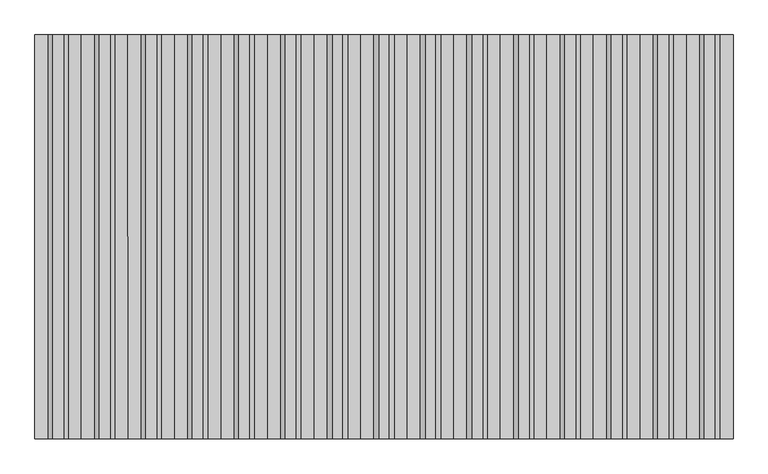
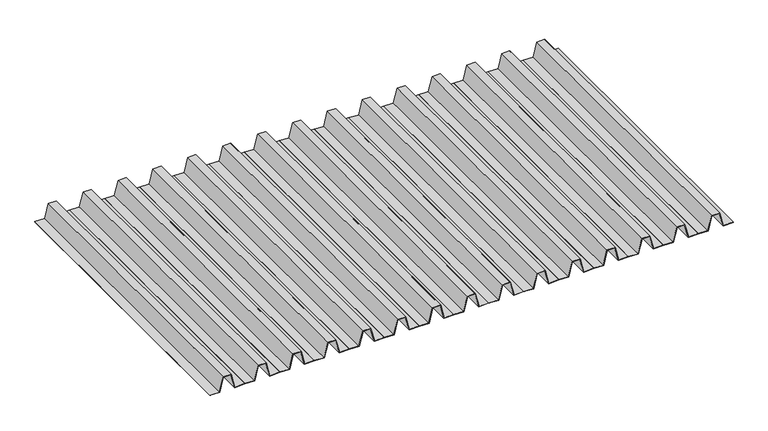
"""IFC4 building model written with IfcOpenShell, lengths in millimetres: proxy geometry, Renson_Amani_Fixed_Roof : Renson_Amani_Fixed_Roof."""

from ifc_helpers import new_model, si_unit, frame, origin, place, context, project, spatial, polyline, outline, extrude, source, transform, mapped, element, save


def generic_models_bdaf10d6(model_context):
    return source(origin(), model_context, "Body", "SweptSolid", [
        extrude(outline(polyline([(2416.1350727, 3500.0), (2413.1322147, 3500.0), (2410.0, 3571.7403502), (2516.0797384, 3598.1893092), (2516.0797384, 3651.8176159), (2410.0, 3678.2596498), (2413.1322147, 3750.0), (2416.1350727, 3750.0), (2413.1040587, 3680.577555), (2519.0797384, 3654.1614661), (2519.0797384, 3595.845459), (2413.1040587, 3569.422445), (2416.1350727, 3500.0)])), frame((0.0, 0.0, 0.0), z_axis=(0.0, 1.0, 0.0), x_axis=(0.0, 0.0, 1.0)), (0.0, 0.0, 1.0), 2170.0),
        extrude(outline(polyline([(2416.1350727, 3250.0), (2413.1322147, 3250.0), (2410.0, 3321.7403502), (2516.0797384, 3348.1893092), (2516.0797384, 3401.8176159), (2410.0, 3428.2596498), (2413.1322147, 3500.0), (2416.1350727, 3500.0), (2413.1040587, 3430.577555), (2519.0797384, 3404.1614661), (2519.0797384, 3345.845459), (2413.1040587, 3319.422445), (2416.1350727, 3250.0)])), frame((0.0, 0.0, 0.0), z_axis=(0.0, 1.0, 0.0), x_axis=(0.0, 0.0, 1.0)), (0.0, 0.0, 1.0), 2170.0),
        extrude(outline(polyline([(2416.1350727, 3000.0), (2413.1322147, 3000.0), (2410.0, 3071.7403502), (2516.0797384, 3098.1893092), (2516.0797384, 3151.8176159), (2410.0, 3178.2596498), (2413.1322147, 3250.0), (2416.1350727, 3250.0), (2413.1040587, 3180.577555), (2519.0797384, 3154.1614661), (2519.0797384, 3095.845459), (2413.1040587, 3069.422445), (2416.1350727, 3000.0)])), frame((0.0, 0.0, 0.0), z_axis=(0.0, 1.0, 0.0), x_axis=(0.0, 0.0, 1.0)), (0.0, 0.0, 1.0), 2170.0),
        extrude(outline(polyline([(2416.1350727, 2750.0), (2413.1322147, 2750.0), (2410.0, 2821.7403502), (2516.0797384, 2848.1893092), (2516.0797384, 2901.8176159), (2410.0, 2928.2596498), (2413.1322147, 3000.0), (2416.1350727, 3000.0), (2413.1040587, 2930.577555), (2519.0797384, 2904.1614661), (2519.0797384, 2845.845459), (2413.1040587, 2819.422445), (2416.1350727, 2750.0)])), frame((0.0, 0.0, 0.0), z_axis=(0.0, 1.0, 0.0), x_axis=(0.0, 0.0, 1.0)), (0.0, 0.0, 1.0), 2170.0),
        extrude(outline(polyline([(2416.1350727, 2500.0), (2413.1322147, 2500.0), (2410.0, 2571.7403502), (2516.0797384, 2598.1893092), (2516.0797384, 2651.8176159), (2410.0, 2678.2596498), (2413.1322147, 2750.0), (2416.1350727, 2750.0), (2413.1040587, 2680.577555), (2519.0797384, 2654.1614661), (2519.0797384, 2595.845459), (2413.1040587, 2569.422445), (2416.1350727, 2500.0)])), frame((0.0, 0.0, 0.0), z_axis=(0.0, 1.0, 0.0), x_axis=(0.0, 0.0, 1.0)), (0.0, 0.0, 1.0), 2170.0),
        extrude(outline(polyline([(2416.1350727, 2250.0), (2413.1322147, 2250.0), (2410.0, 2321.7403502), (2516.0797384, 2348.1893092), (2516.0797384, 2401.8176159), (2410.0, 2428.2596498), (2413.1322147, 2500.0), (2416.1350727, 2500.0), (2413.1040587, 2430.577555), (2519.0797384, 2404.1614661), (2519.0797384, 2345.845459), (2413.1040587, 2319.422445), (2416.1350727, 2250.0)])), frame((0.0, 0.0, 0.0), z_axis=(0.0, 1.0, 0.0), x_axis=(0.0, 0.0, 1.0)), (0.0, 0.0, 1.0), 2170.0),
        extrude(outline(polyline([(2416.1350727, 2000.0), (2413.1322147, 2000.0), (2410.0, 2071.7403502), (2516.0797384, 2098.1893092), (2516.0797384, 2151.8176159), (2410.0, 2178.2596498), (2413.1322147, 2250.0), (2416.1350727, 2250.0), (2413.1040587, 2180.577555), (2519.0797384, 2154.1614661), (2519.0797384, 2095.845459), (2413.1040587, 2069.422445), (2416.1350727, 2000.0)])), frame((0.0, 0.0, 0.0), z_axis=(0.0, 1.0, 0.0), x_axis=(0.0, 0.0, 1.0)), (0.0, 0.0, 1.0), 2170.0),
        extrude(outline(polyline([(2416.1350727, 1750.0), (2413.1322147, 1750.0), (2410.0, 1821.7403502), (2516.0797384, 1848.1893092), (2516.0797384, 1901.8176159), (2410.0, 1928.2596498), (2413.1322147, 2000.0), (2416.1350727, 2000.0), (2413.1040587, 1930.577555), (2519.0797384, 1904.1614661), (2519.0797384, 1845.845459), (2413.1040587, 1819.422445), (2416.1350727, 1750.0)])), frame((0.0, 0.0, 0.0), z_axis=(0.0, 1.0, 0.0), x_axis=(0.0, 0.0, 1.0)), (0.0, 0.0, 1.0), 2170.0),
        extrude(outline(polyline([(2416.1350727, 1500.0), (2413.1322147, 1500.0), (2410.0, 1571.7403502), (2516.0797384, 1598.1893092), (2516.0797384, 1651.8176159), (2410.0, 1678.2596498), (2413.1322147, 1750.0), (2416.1350727, 1750.0), (2413.1040587, 1680.577555), (2519.0797384, 1654.1614661), (2519.0797384, 1595.845459), (2413.1040587, 1569.422445), (2416.1350727, 1500.0)])), frame((0.0, 0.0, 0.0), z_axis=(0.0, 1.0, 0.0), x_axis=(0.0, 0.0, 1.0)), (0.0, 0.0, 1.0), 2170.0),
        extrude(outline(polyline([(2416.1350727, 1250.0), (2413.1322147, 1250.0), (2410.0, 1321.7403502), (2516.0797384, 1348.1893092), (2516.0797384, 1401.8176159), (2410.0, 1428.2596498), (2413.1322147, 1500.0), (2416.1350727, 1500.0), (2413.1040587, 1430.577555), (2519.0797384, 1404.1614661), (2519.0797384, 1345.845459), (2413.1040587, 1319.422445), (2416.1350727, 1250.0)])), frame((0.0, 0.0, 0.0), z_axis=(0.0, 1.0, 0.0), x_axis=(0.0, 0.0, 1.0)), (0.0, 0.0, 1.0), 2170.0),
        extrude(outline(polyline([(2416.1350727, 1000.0), (2413.1322147, 1000.0), (2410.0, 1071.7403502), (2516.0797384, 1098.1893092), (2516.0797384, 1151.8176159), (2410.0, 1178.2596498), (2413.1322147, 1250.0), (2416.1350727, 1250.0), (2413.1040587, 1180.577555), (2519.0797384, 1154.1614661), (2519.0797384, 1095.845459), (2413.1040587, 1069.422445), (2416.1350727, 1000.0)])), frame((0.0, 0.0, 0.0), z_axis=(0.0, 1.0, 0.0), x_axis=(0.0, 0.0, 1.0)), (0.0, 0.0, 1.0), 2170.0),
        extrude(outline(polyline([(2416.1350727, 750.0), (2413.1322147, 750.0), (2410.0, 821.7403502), (2516.0797384, 848.1893092), (2516.0797384, 901.8176159), (2410.0, 928.2596498), (2413.1322147, 1000.0), (2416.1350727, 1000.0), (2413.1040587, 930.577555), (2519.0797384, 904.1614661), (2519.0797384, 845.845459), (2413.1040587, 819.422445), (2416.1350727, 750.0)])), frame((0.0, 0.0, 0.0), z_axis=(0.0, 1.0, 0.0), x_axis=(0.0, 0.0, 1.0)), (0.0, 0.0, 1.0), 2170.0),
        extrude(outline(polyline([(2416.1350727, 500.0), (2413.1322147, 500.0), (2410.0, 571.7403502), (2516.0797384, 598.1893092), (2516.0797384, 651.8176159), (2410.0, 678.2596498), (2413.1322147, 750.0), (2416.1350727, 750.0), (2413.1040587, 680.577555), (2519.0797384, 654.1614661), (2519.0797384, 595.845459), (2413.1040587, 569.422445), (2416.1350727, 500.0)])), frame((0.0, 0.0, 0.0), z_axis=(0.0, 1.0, 0.0), x_axis=(0.0, 0.0, 1.0)), (0.0, 0.0, 1.0), 2170.0),
        extrude(outline(polyline([(2416.1350727, 250.0), (2413.1322147, 250.0), (2410.0, 321.7403502), (2516.0797384, 348.1893092), (2516.0797384, 401.8176159), (2410.0, 428.2596498), (2413.1322147, 500.0), (2416.1350727, 500.0), (2413.1040587, 430.577555), (2519.0797384, 404.1614661), (2519.0797384, 345.845459), (2413.1040587, 319.422445), (2416.1350727, 250.0)])), frame((0.0, 0.0, 0.0), z_axis=(0.0, 1.0, 0.0), x_axis=(0.0, 0.0, 1.0)), (0.0, 0.0, 1.0), 2170.0),
        extrude(outline(polyline([(2416.1350727, 0.0), (2413.1322147, 0.0), (2410.0, 71.7403502), (2516.0797384, 98.1893092), (2516.0797384, 151.8176159), (2410.0, 178.2596498), (2413.1322147, 250.0), (2416.1350727, 250.0), (2413.1040587, 180.577555), (2519.0797384, 154.1614661), (2519.0797384, 95.845459), (2413.1040587, 69.422445), (2416.1350727, 0.0)])), frame((0.0, 0.0, 0.0), z_axis=(0.0, 1.0, 0.0), x_axis=(0.0, 0.0, 1.0)), (0.0, 0.0, 1.0), 2170.0),
    ])


if __name__ == "__main__":
    model = new_model("IFC4")
    model_context = context("Model", 3, world=origin())
    ifc_project = project(units=[si_unit("LENGTHUNIT", "METRE", prefix="MILLI")], contexts=[model_context])
    site = spatial("IfcSite", under=ifc_project)
    building = spatial("IfcBuilding", under=site)
    placement = place(None, origin())
    generic_models_shape = generic_models_bdaf10d6(model_context)
    element("IfcBuildingElementProxy", 1, Name="Renson_Amani_Fixed_Roof : Renson_Amani_Fixed_Roof", ObjectType="Renson_Amani_Fixed_Roof : Renson_Amani_Fixed_Roof", at=placement, inside=building, context=model_context, shape_type="MappedRepresentation", body=[
        mapped(generic_models_shape, transform((0.0, 0.0, 0.0), x_axis=(1.0, 0.0, 0.0), y_axis=(0.0, 1.0, 0.0), z_axis=(0.0, 0.0, 1.0))),
    ])
    save(model, "model.ifc")
